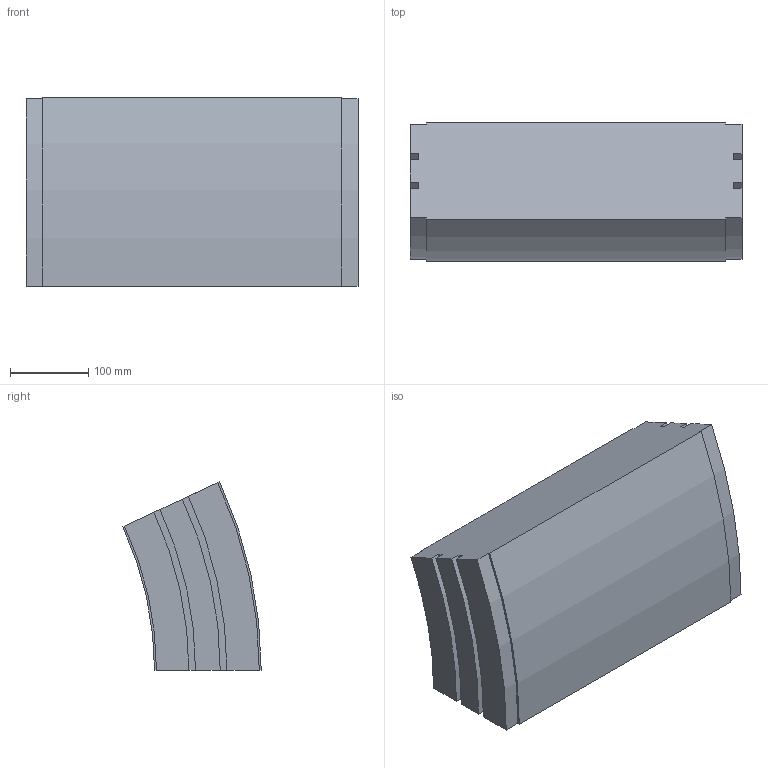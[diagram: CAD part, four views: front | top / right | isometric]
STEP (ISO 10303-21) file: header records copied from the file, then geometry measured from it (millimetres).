
FILE_DESCRIPTION (( 'STEP AP214' ), '1' );
FILE_NAME ('02.150V25.420.N FS-350-MTC-150 Bocht verticaal 25°.STEP', '2013-03-29T12:31:02', ( 'Gebruiker' ), ( '' ), 'SwSTEP 2.0', 'SolidWorks 2012', '' );
FILE_SCHEMA (( 'AUTOMOTIVE_DESIGN' ));
Length unit declared in the file: millimetre
Products named in the file (1): 02.150V25.420.N FS-350-MTC-150 Bocht verticaal 25°
Bounding box: 423 x 176.47 x 240.05 mm (x, y, z)
Volume: 12423253.6 mm3; surface area: 376996.4 mm2
Topology: 1 solids, 1 shells, 30 faces, 84 edges, 56 vertices
Faces by surface type: plane 16, cylinder 14
Entity records: 1010 total; most frequent: DIRECTION 174, CARTESIAN_POINT 171, ORIENTED_EDGE 168, EDGE_CURVE 84, AXIS2_PLACEMENT_3D 59, VERTEX_POINT 56, LINE 56, VECTOR 56
